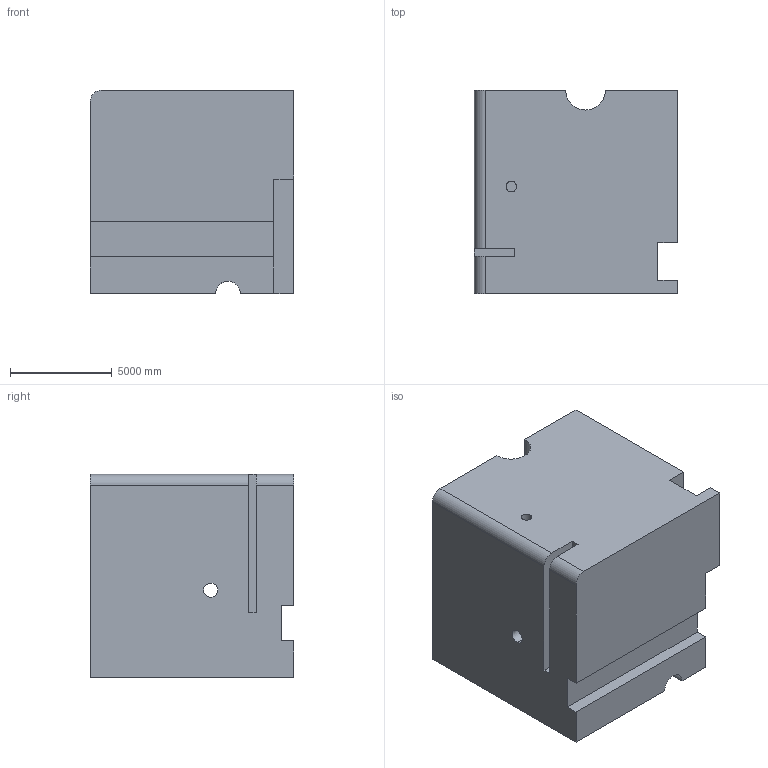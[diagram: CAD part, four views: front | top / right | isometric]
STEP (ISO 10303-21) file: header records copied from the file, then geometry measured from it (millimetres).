
FILE_DESCRIPTION (( 'STEP AP203' ), '1' );
FILE_NAME ('189.STEP', '2022-09-05T16:04:45', ( 'user' ), ( '' ), 'SwSTEP 2.0', 'SolidWorks 2021', '' );
FILE_SCHEMA (( 'CONFIG_CONTROL_DESIGN' ));
Length unit declared in the file: centimetre
Products named in the file (1): 189
Bounding box: 10000 x 10000 x 10000 mm (x, y, z)
Volume: 936818458257.5 mm3; surface area: 684773450.8 mm2
Topology: 1 solids, 1 shells, 31 faces, 84 edges, 56 vertices
Faces by surface type: plane 22, cylinder 9
Entity records: 1118 total; most frequent: CARTESIAN_POINT 235, ORIENTED_EDGE 168, DIRECTION 165, EDGE_CURVE 84, LINE 65, VECTOR 65, VERTEX_POINT 56, AXIS2_PLACEMENT_3D 50
